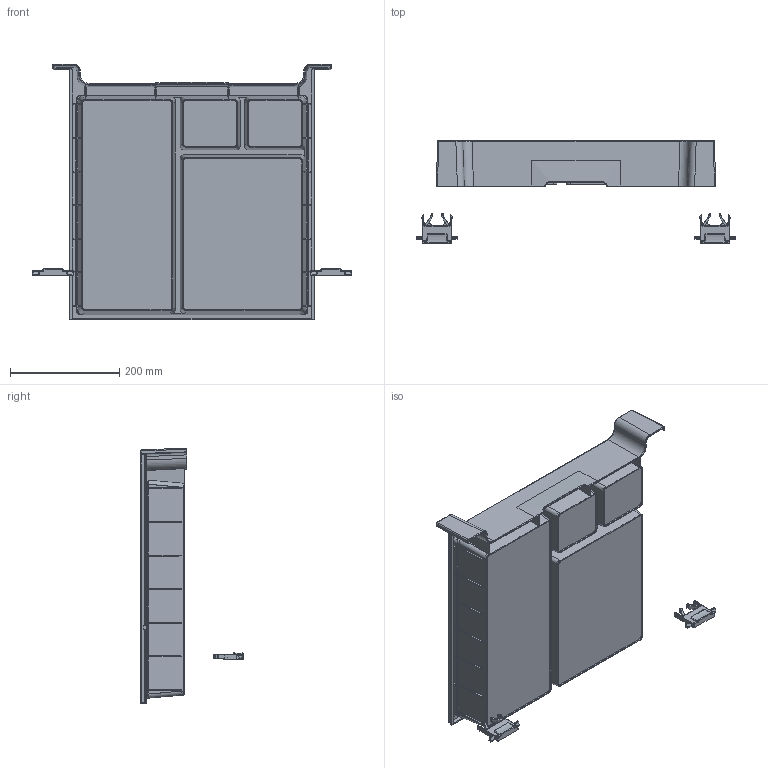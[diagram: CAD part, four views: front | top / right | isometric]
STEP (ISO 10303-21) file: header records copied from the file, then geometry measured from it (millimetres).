
FILE_DESCRIPTION (( 'STEP AP203' ), '1' );
FILE_NAME ('E299812.STEP', '2025-03-27T13:03:02', ( '' ), ( '' ), 'SwSTEP 2.0', 'SolidWorks 2023', '' );
FILE_SCHEMA (( 'CONFIG_CONTROL_DESIGN' ));
Products named in the file (1): E299812
Bounding box: 581.89 x 187.39 x 467.79 mm (x, y, z)
Surface area: 859576.8 mm2 (no closed solid volume)
Topology: 0 solids, 3 shells, 852 faces, 2641 edges, 1689 vertices
Faces by surface type: cylinder 363, plane 304, bspline 172, cone 13
Entity records: 53574 total; most frequent: CARTESIAN_POINT 32825, ORIENTED_EDGE 4682, DIRECTION 3493, EDGE_CURVE 2621, VERTEX_POINT 1689, VECTOR 1405, LINE 1405, AXIS2_PLACEMENT_3D 1044
